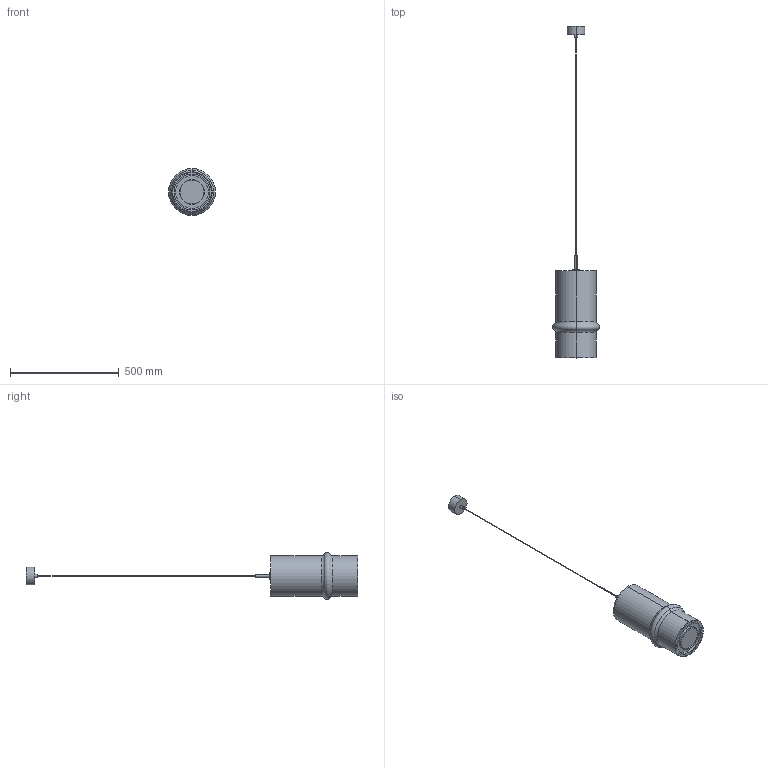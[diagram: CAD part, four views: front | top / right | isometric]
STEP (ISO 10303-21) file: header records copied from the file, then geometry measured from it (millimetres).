
FILE_DESCRIPTION (( 'STEP AP214' ), '1' );
FILE_NAME ('BAMBU_C1087.STEP', '2025-09-19T15:26:12', ( '' ), ( '' ), 'SwSTEP 2.0', 'SolidWorks 2018', '' );
FILE_SCHEMA (( 'AUTOMOTIVE_DESIGN' ));
Length unit declared in the file: millimetre
Products named in the file (1): BAMBU_C1087
Bounding box: 215.28 x 1527 x 215.28 mm (x, y, z)
Volume: 1769831.2 mm3; surface area: 632475.3 mm2
Topology: 6 solids, 6 shells, 52 faces, 94 edges, 60 vertices
Faces by surface type: cylinder 28, plane 18, torus 6
Entity records: 1955 total; most frequent: DIRECTION 266, CARTESIAN_POINT 207, ORIENTED_EDGE 188, AXIS2_PLACEMENT_3D 119, EDGE_CURVE 94, CIRCLE 66, VERTEX_POINT 60, EDGE_LOOP 60
